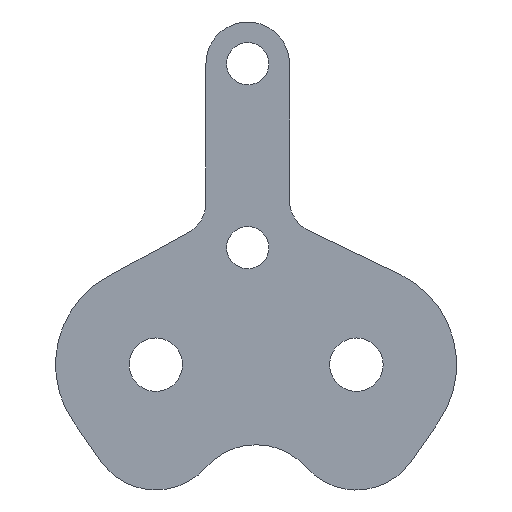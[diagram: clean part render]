
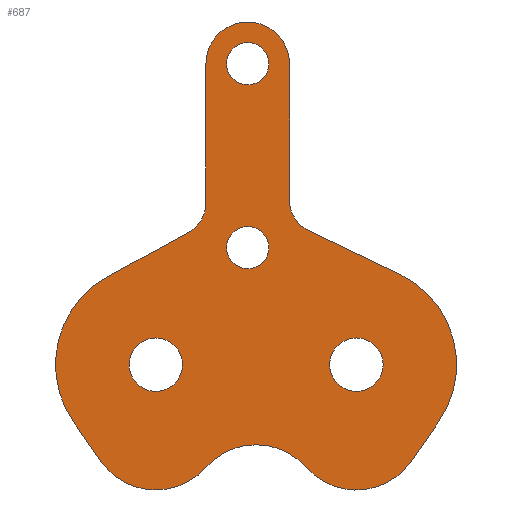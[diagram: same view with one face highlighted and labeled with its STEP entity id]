
A CAD part, left-side view. The second image highlights one B-rep face of the part: STEP entity #687.
In plain terms, the highlighted planar face has unit normal (-1, 0, 0).
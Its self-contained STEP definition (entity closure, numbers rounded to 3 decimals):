
#41=FACE_BOUND('',#218,.T.);
#42=FACE_BOUND('',#219,.T.);
#43=FACE_BOUND('',#220,.T.);
#44=FACE_BOUND('',#221,.T.);
#66=LINE('',#1170,#106);
#69=LINE('',#1178,#109);
#76=LINE('',#1202,#116);
#80=LINE('',#1212,#120);
#82=LINE('',#1218,#122);
#83=LINE('',#1221,#123);
#106=VECTOR('',#954,10.);
#109=VECTOR('',#963,10.);
#116=VECTOR('',#992,10.);
#120=VECTOR('',#1002,10.);
#122=VECTOR('',#1010,10.);
#123=VECTOR('',#1013,10.);
#132=PLANE('',#784);
#171=FACE_OUTER_BOUND('',#217,.T.);
#217=EDGE_LOOP('',(#601,#602,#603,#604,#605,#606,#607,#608,#609,#610,#611,
#612,#613,#614));
#218=EDGE_LOOP('',(#615));
#219=EDGE_LOOP('',(#616));
#220=EDGE_LOOP('',(#617));
#221=EDGE_LOOP('',(#618));
#273=CIRCLE('',#759,4.);
#274=CIRCLE('',#761,4.);
#275=CIRCLE('',#763,4.);
#276=CIRCLE('',#766,6.);
#277=CIRCLE('',#769,2.);
#279=CIRCLE('',#773,1.265);
#281=CIRCLE('',#777,1.265);
#282=CIRCLE('',#780,2.);
#283=CIRCLE('',#783,2.5);
#284=CIRCLE('',#785,6.);
#285=CIRCLE('',#786,1.6);
#286=CIRCLE('',#787,1.6);
#327=VERTEX_POINT('',#1154);
#328=VERTEX_POINT('',#1156);
#329=VERTEX_POINT('',#1160);
#330=VERTEX_POINT('',#1164);
#331=VERTEX_POINT('',#1168);
#332=VERTEX_POINT('',#1172);
#333=VERTEX_POINT('',#1176);
#334=VERTEX_POINT('',#1180);
#336=VERTEX_POINT('',#1188);
#338=VERTEX_POINT('',#1196);
#339=VERTEX_POINT('',#1200);
#340=VERTEX_POINT('',#1204);
#341=VERTEX_POINT('',#1206);
#342=VERTEX_POINT('',#1210);
#343=VERTEX_POINT('',#1214);
#344=VERTEX_POINT('',#1219);
#345=VERTEX_POINT('',#1222);
#346=VERTEX_POINT('',#1224);
#406=EDGE_CURVE('',#328,#327,#273,.T.);
#409=EDGE_CURVE('',#327,#329,#274,.T.);
#411=EDGE_CURVE('',#329,#330,#275,.T.);
#413=EDGE_CURVE('',#330,#331,#66,.T.);
#415=EDGE_CURVE('',#331,#332,#276,.T.);
#417=EDGE_CURVE('',#333,#332,#69,.T.);
#419=EDGE_CURVE('',#334,#333,#277,.T.);
#423=EDGE_CURVE('',#336,#336,#279,.T.);
#427=EDGE_CURVE('',#338,#338,#281,.T.);
#429=EDGE_CURVE('',#339,#334,#76,.T.);
#431=EDGE_CURVE('',#340,#341,#282,.T.);
#434=EDGE_CURVE('',#340,#342,#80,.T.);
#436=EDGE_CURVE('',#343,#339,#283,.T.);
#437=EDGE_CURVE('',#341,#343,#82,.T.);
#438=EDGE_CURVE('',#344,#342,#284,.T.);
#439=EDGE_CURVE('',#344,#328,#83,.T.);
#440=EDGE_CURVE('',#345,#345,#285,.T.);
#441=EDGE_CURVE('',#346,#346,#286,.T.);
#601=ORIENTED_EDGE('',*,*,#429,.F.);
#602=ORIENTED_EDGE('',*,*,#436,.F.);
#603=ORIENTED_EDGE('',*,*,#437,.F.);
#604=ORIENTED_EDGE('',*,*,#431,.F.);
#605=ORIENTED_EDGE('',*,*,#434,.T.);
#606=ORIENTED_EDGE('',*,*,#438,.F.);
#607=ORIENTED_EDGE('',*,*,#439,.T.);
#608=ORIENTED_EDGE('',*,*,#406,.T.);
#609=ORIENTED_EDGE('',*,*,#409,.T.);
#610=ORIENTED_EDGE('',*,*,#411,.T.);
#611=ORIENTED_EDGE('',*,*,#413,.T.);
#612=ORIENTED_EDGE('',*,*,#415,.T.);
#613=ORIENTED_EDGE('',*,*,#417,.F.);
#614=ORIENTED_EDGE('',*,*,#419,.F.);
#615=ORIENTED_EDGE('',*,*,#423,.T.);
#616=ORIENTED_EDGE('',*,*,#427,.T.);
#617=ORIENTED_EDGE('',*,*,#440,.F.);
#618=ORIENTED_EDGE('',*,*,#441,.F.);
#687=ADVANCED_FACE('',(#171,#41,#42,#43,#44),#132,.F.);
#759=AXIS2_PLACEMENT_3D('',#1157,#938,#939);
#761=AXIS2_PLACEMENT_3D('',#1162,#944,#945);
#763=AXIS2_PLACEMENT_3D('',#1166,#949,#950);
#766=AXIS2_PLACEMENT_3D('',#1174,#958,#959);
#769=AXIS2_PLACEMENT_3D('',#1182,#967,#968);
#773=AXIS2_PLACEMENT_3D('',#1190,#977,#978);
#777=AXIS2_PLACEMENT_3D('',#1198,#987,#988);
#780=AXIS2_PLACEMENT_3D('',#1207,#996,#997);
#783=AXIS2_PLACEMENT_3D('',#1216,#1006,#1007);
#784=AXIS2_PLACEMENT_3D('',#1217,#1008,#1009);
#785=AXIS2_PLACEMENT_3D('',#1220,#1011,#1012);
#786=AXIS2_PLACEMENT_3D('',#1223,#1014,#1015);
#787=AXIS2_PLACEMENT_3D('',#1225,#1016,#1017);
#938=DIRECTION('center_axis',(-1.,0.,0.));
#939=DIRECTION('ref_axis',(0.,1.,0.));
#944=DIRECTION('center_axis',(1.,0.,0.));
#945=DIRECTION('ref_axis',(0.,1.,0.));
#949=DIRECTION('center_axis',(-1.,0.,0.));
#950=DIRECTION('ref_axis',(0.,1.,0.));
#954=DIRECTION('',(0.,-0.571,0.821));
#958=DIRECTION('center_axis',(-1.,0.,0.));
#959=DIRECTION('ref_axis',(0.,1.,0.));
#963=DIRECTION('',(0.,-0.902,-0.433));
#967=DIRECTION('center_axis',(-1.,0.,0.));
#968=DIRECTION('ref_axis',(0.,0.846,-0.533));
#977=DIRECTION('center_axis',(1.,0.,0.));
#978=DIRECTION('ref_axis',(0.,1.,0.));
#987=DIRECTION('center_axis',(1.,0.,0.));
#988=DIRECTION('ref_axis',(0.,1.,0.));
#992=DIRECTION('',(0.,0.,-1.));
#996=DIRECTION('center_axis',(-1.,0.,0.));
#997=DIRECTION('ref_axis',(0.,-0.86,-0.51));
#1002=DIRECTION('',(0.,0.877,-0.48));
#1006=DIRECTION('center_axis',(1.,0.,0.));
#1007=DIRECTION('ref_axis',(0.,1.,0.));
#1008=DIRECTION('center_axis',(1.,0.,0.));
#1009=DIRECTION('ref_axis',(0.,0.,-1.));
#1010=DIRECTION('',(0.,0.,1.));
#1011=DIRECTION('center_axis',(1.,0.,0.));
#1012=DIRECTION('ref_axis',(0.,1.,0.));
#1013=DIRECTION('',(0.,-0.571,-0.821));
#1014=DIRECTION('center_axis',(-1.,0.,0.));
#1015=DIRECTION('ref_axis',(0.,0.,-1.));
#1016=DIRECTION('center_axis',(-1.,0.,0.));
#1017=DIRECTION('ref_axis',(0.,0.,-1.));
#1154=CARTESIAN_POINT('',(-88.,285.5,3.854));
#1156=CARTESIAN_POINT('',(-88.,291.783,4.214));
#1157=CARTESIAN_POINT('Origin',(-88.,288.5,6.5));
#1160=CARTESIAN_POINT('',(-88.,279.5,3.854));
#1162=CARTESIAN_POINT('Origin',(-88.,282.5,1.208));
#1164=CARTESIAN_POINT('',(-88.,273.217,4.214));
#1166=CARTESIAN_POINT('Origin',(-88.,276.5,6.5));
#1168=CARTESIAN_POINT('',(-88.,271.576,6.571));
#1170=CARTESIAN_POINT('',(-88.,271.259,7.027));
#1172=CARTESIAN_POINT('',(-88.,273.905,15.41));
#1174=CARTESIAN_POINT('Origin',(-88.,276.5,10.));
#1176=CARTESIAN_POINT('',(-88.,279.365,18.029));
#1178=CARTESIAN_POINT('',(-88.,278.4,17.566));
#1180=CARTESIAN_POINT('',(-88.,280.5,19.832));
#1182=CARTESIAN_POINT('Origin',(-88.,278.5,19.832));
#1188=CARTESIAN_POINT('',(-88.,281.736,28.));
#1190=CARTESIAN_POINT('Origin',(-88.,283.,28.));
#1196=CARTESIAN_POINT('',(-88.,281.736,17.));
#1198=CARTESIAN_POINT('Origin',(-88.,283.,17.));
#1200=CARTESIAN_POINT('',(-88.,280.5,28.));
#1202=CARTESIAN_POINT('',(-88.,280.5,19.412));
#1204=CARTESIAN_POINT('',(-88.,286.54,17.913));
#1206=CARTESIAN_POINT('',(-88.,285.5,19.667));
#1207=CARTESIAN_POINT('Origin',(-88.,287.5,19.667));
#1210=CARTESIAN_POINT('',(-88.,291.381,15.263));
#1212=CARTESIAN_POINT('',(-88.,287.493,17.391));
#1214=CARTESIAN_POINT('',(-88.,285.5,28.));
#1216=CARTESIAN_POINT('Origin',(-88.,283.,28.));
#1217=CARTESIAN_POINT('Origin',(-88.,282.5,17.5));
#1218=CARTESIAN_POINT('',(-88.,285.5,24.125));
#1219=CARTESIAN_POINT('',(-88.,293.424,6.571));
#1220=CARTESIAN_POINT('Origin',(-88.,288.5,10.));
#1221=CARTESIAN_POINT('',(-88.,293.382,6.512));
#1222=CARTESIAN_POINT('',(-88.,276.5,11.6));
#1223=CARTESIAN_POINT('Origin',(-88.,276.5,10.));
#1224=CARTESIAN_POINT('',(-88.,288.5,11.6));
#1225=CARTESIAN_POINT('Origin',(-88.,288.5,10.));
